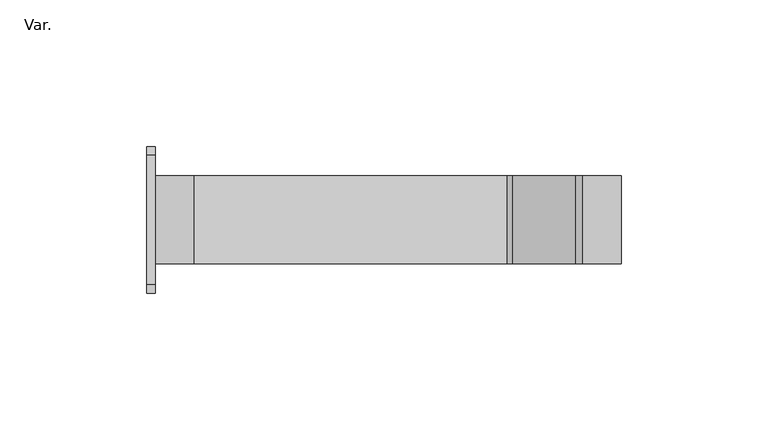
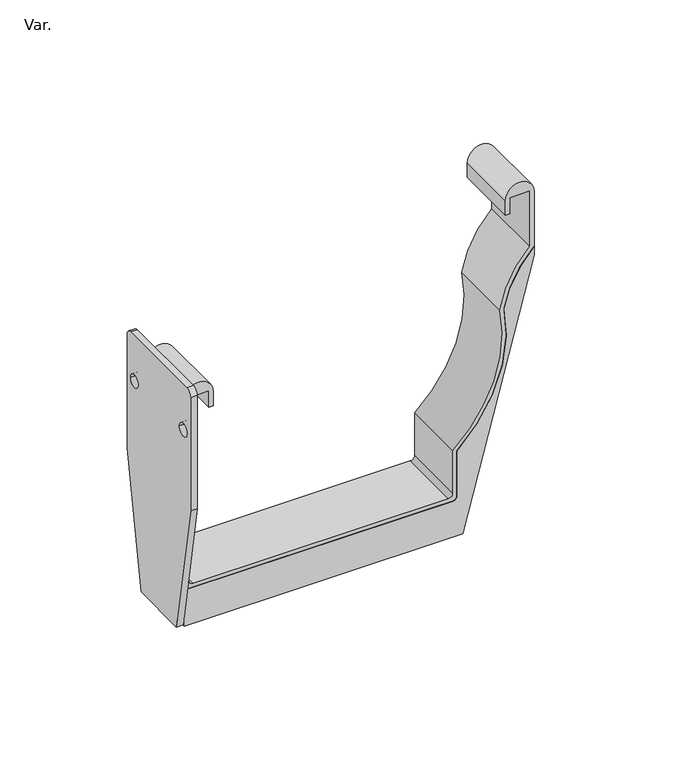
"""IFC4 building model written with IfcOpenShell, lengths in millimetres: pipe fitting geometry, PlastigamaWavin_Unionesdetubería_CanalesyBajantesZ_NoUsarSoportePlástico : Var.."""

from ifc_helpers import new_model, si_unit, point, frame, frame_2d, origin, place, context, project, spatial, polyline, circle_curve, trimmed, segment, composite_curve, outline, extrude, source, transform, mapped, element, save


def var_7c6a0a23(model_context):
    return source(origin(), model_context, "Body", "SweptSolid", [
        extrude(outline(composite_curve([segment(polyline([(40.0, 43.4498509), (28.9580591, -19.1721079), (1.0419409, -19.1721079), (-10.0, 43.4498509), (-10.0, 97.8278921)]), True, "CONTINUOUS"), segment(trimmed(circle_curve(frame_2d((-7.0, 97.8278921)), 3.0), [point((-10.0, 97.8278921))], [point((-7.0, 100.8278921))], False, "CARTESIAN"), True, "CONTINUOUS"), segment(polyline([(-7.0, 100.8278921), (37.0, 100.8278921)]), True, "CONTINUOUS"), segment(trimmed(circle_curve(frame_2d((37.0, 97.8278921)), 3.0), [point((37.0, 100.8278921))], [point((40.0, 97.8278921))], False, "CARTESIAN"), True, "CONTINUOUS"), segment(polyline([(40.0, 97.8278921), (40.0, 43.4498509)]), True, "CONTINUOUS")], self_intersect=False), holes=[composite_curve([segment(trimmed(circle_curve(frame_2d((34.2435436, 78.8766006)), 3.0), [point((31.2435436, 78.8766006))], [point((37.2435436, 78.8766006))], True, "CARTESIAN"), True, "CONTINUOUS"), segment(trimmed(circle_curve(frame_2d((34.2435436, 78.8766006)), 3.0), [point((37.2435436, 78.8766006))], [point((31.2435436, 78.8766006))], True, "CARTESIAN"), True, "CONTINUOUS")], self_intersect=False), composite_curve([segment(trimmed(circle_curve(frame_2d((-4.2435436, 78.8766006)), 3.0), [point((-7.2435436, 78.8766006))], [point((-1.2435436, 78.8766006))], True, "CARTESIAN"), True, "CONTINUOUS"), segment(trimmed(circle_curve(frame_2d((-4.2435436, 78.8766006)), 3.0), [point((-1.2435436, 78.8766006))], [point((-7.2435436, 78.8766006))], True, "CARTESIAN"), True, "CONTINUOUS")], self_intersect=False)]), frame((-82.5, 0.0, 0.0), z_axis=(1.0, 0.0, 0.0), x_axis=(0.0, 1.0, 0.0)), (0.0, 0.0, 1.0), 3.0),
        extrude(outline(composite_curve([segment(polyline([(-19.1721079, 47.0632779), (103.7306481, 79.5451508), (107.5554994, 79.5451508)]), True, "CONTINUOUS"), segment(trimmed(circle_curve(frame_2d((73.8139942, 111.7560782)), 46.6479691), [point((107.5554994, 79.5451508))], [point((82.443142, 65.9131853))], False, "CARTESIAN"), True, "CONTINUOUS"), segment(trimmed(circle_curve(frame_2d((70.8527075, 1.6947031)), 65.2560467), [point((82.443142, 65.9131853))], [point((21.5976754, 44.5))], True, "CARTESIAN"), True, "CONTINUOUS"), segment(polyline([(21.5976754, 44.5), (0.0, 44.5)]), True, "CONTINUOUS"), segment(trimmed(circle_curve(frame_2d((0.0, 42.5)), 2.0), [point((0.0, 44.5))], [point((-1.9721079, 42.8328519))], True, "CARTESIAN"), True, "CONTINUOUS"), segment(polyline([(-1.9721079, 42.8328519), (-1.9721079, -77.532319)]), True, "CONTINUOUS"), segment(trimmed(circle_curve(frame_2d((-0.0044269, -77.532319)), 1.967681), [point((-1.9721079, -77.532319))], [point((-0.0044269, -79.5))], True, "CARTESIAN"), True, "CONTINUOUS"), segment(polyline([(-0.0044269, -79.5), (-19.1721079, -79.5), (-19.1721079, 47.0632779)]), True, "CONTINUOUS")], self_intersect=False)), frame((0.0, 0.0, 0.0), z_axis=(0.0, 1.0, 0.0), x_axis=(0.0, 0.0, 1.0)), (0.0, 0.0, 1.0), 30.0),
        extrude(outline(composite_curve([segment(polyline([(1.98, -77.52), (89.9957046, -77.52), (89.9957046, -68.375625), (82.1907729, -68.375625), (82.1907729, -66.395625), (89.2357046, -66.395625)]), True, "CONTINUOUS"), segment(trimmed(circle_curve(frame_2d((89.2357046, -72.9478125)), 6.5521875), [point((89.2357046, -66.395625))], [point((89.2357046, -79.5))], False, "CARTESIAN"), True, "CONTINUOUS"), segment(polyline([(89.2357046, -79.5), (-0.0044269, -79.5)]), True, "CONTINUOUS"), segment(trimmed(circle_curve(frame_2d((-0.0044269, -77.532319)), 1.967681), [point((-0.0044269, -79.5))], [point((-1.9721079, -77.532319))], False, "CARTESIAN"), True, "CONTINUOUS"), segment(polyline([(-1.9721079, -77.532319), (-1.9721079, 42.8328519)]), True, "CONTINUOUS"), segment(trimmed(circle_curve(frame_2d((0.0, 42.5)), 2.0), [point((-1.9721079, 42.8328519))], [point((0.0, 44.5))], False, "CARTESIAN"), True, "CONTINUOUS"), segment(polyline([(0.0, 44.5), (21.5976754, 44.5)]), True, "CONTINUOUS"), segment(trimmed(circle_curve(frame_2d((70.8513793, 1.6947031)), 65.2550442), [point((21.5976754, 44.5))], [point((82.4420414, 65.9121256))], False, "CARTESIAN"), True, "CONTINUOUS"), segment(trimmed(circle_curve(frame_2d((73.8185254, 111.7560782)), 46.6479691), [point((82.4420414, 65.9121256))], [point((107.5168702, 79.5))], True, "CARTESIAN"), True, "CONTINUOUS"), segment(polyline([(107.5168702, 79.5), (134.2757046, 79.5)]), True, "CONTINUOUS"), segment(trimmed(circle_curve(frame_2d((134.2757046, 72.9478125)), 6.5521875), [point((134.2757046, 79.5))], [point((134.2757046, 66.395625))], False, "CARTESIAN"), True, "CONTINUOUS"), segment(polyline([(134.2757046, 66.395625), (127.2382827, 66.395625), (127.2382827, 68.415625), (135.0382827, 68.415625), (135.0382827, 77.5042969), (108.3524815, 77.5042969)]), True, "CONTINUOUS"), segment(trimmed(circle_curve(frame_2d((73.8185254, 111.7560782)), 48.6392707), [point((108.3524815, 77.5042969))], [point((82.4671945, 63.891904))], False, "CARTESIAN"), True, "CONTINUOUS"), segment(trimmed(circle_curve(frame_2d((70.8513793, 1.6947031)), 63.2725767), [point((82.4671945, 63.891904))], [point((22.5118086, 42.52))], True, "CARTESIAN"), True, "CONTINUOUS"), segment(polyline([(22.5118086, 42.52), (1.98, 42.52)]), True, "CONTINUOUS"), segment(trimmed(circle_curve(frame_2d((1.98, 40.54)), 1.98), [point((1.98, 42.52))], [point((0.0, 40.54))], True, "CARTESIAN"), True, "CONTINUOUS"), segment(polyline([(0.0, 40.54), (0.0, -75.54)]), True, "CONTINUOUS"), segment(trimmed(circle_curve(frame_2d((1.98, -75.54)), 1.98), [point((0.0, -75.54))], [point((1.98, -77.52))], True, "CARTESIAN"), True, "CONTINUOUS")], self_intersect=False)), frame((0.0, 0.0, 0.0), z_axis=(0.0, 1.0, 0.0), x_axis=(0.0, 0.0, 1.0)), (0.0, 0.0, 1.0), 30.0),
    ])


if __name__ == "__main__":
    model = new_model("IFC4")
    model_context = context("Model", 3, world=origin())
    ifc_project = project(units=[si_unit("LENGTHUNIT", "METRE", prefix="MILLI")], contexts=[model_context])
    site = spatial("IfcSite", under=ifc_project)
    building = spatial("IfcBuilding", under=site)
    placement = place(None, origin())
    var_shape = var_7c6a0a23(model_context)
    element("IfcPipeFitting", 1, ObjectType="PlastigamaWavin_Unionesdetubería_CanalesyBajantesZ_NoUsarSoportePlástico : Var.", at=placement, inside=building, context=model_context, shape_type="MappedRepresentation", body=[
        mapped(var_shape, transform((0.0, 0.0, 0.0), x_axis=(1.0, 0.0, 0.0), y_axis=(0.0, 1.0, 0.0), z_axis=(0.0, 0.0, 1.0))),
    ])
    save(model, "model.ifc")
